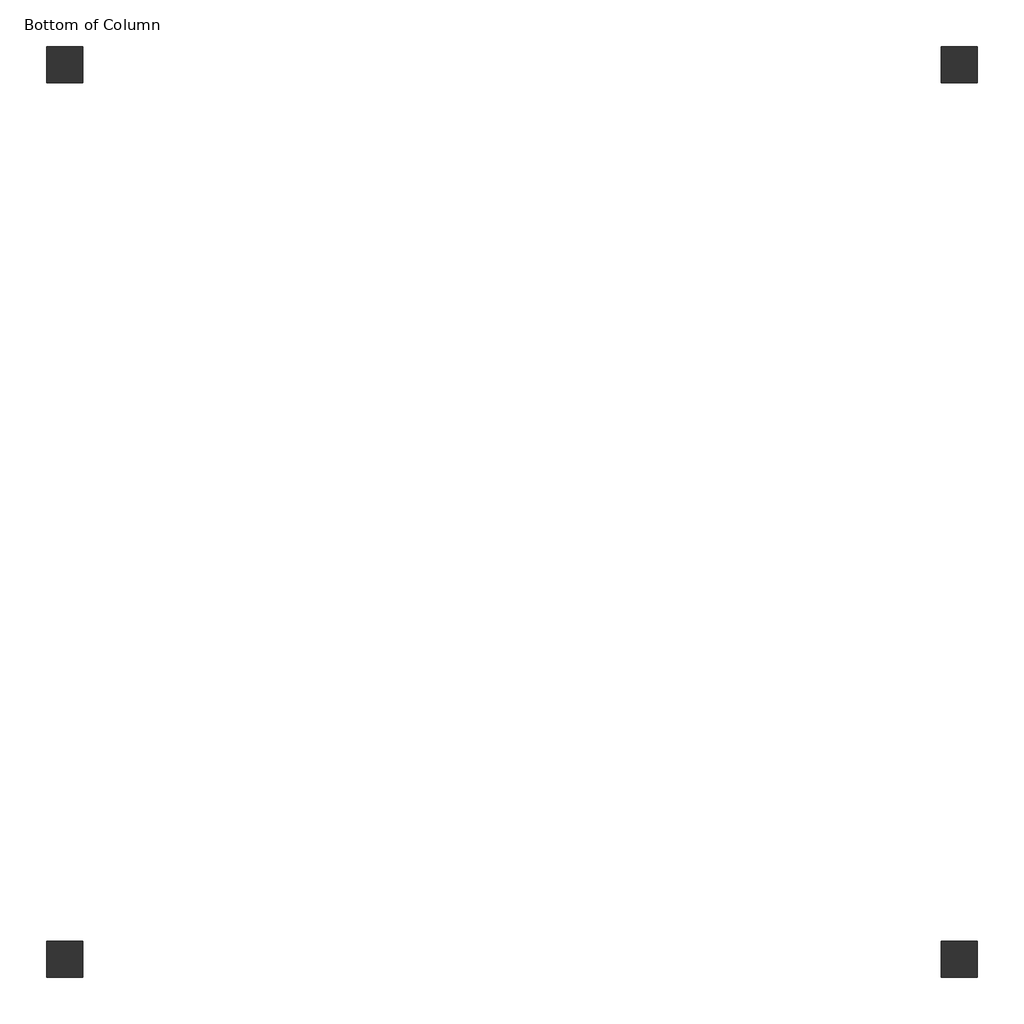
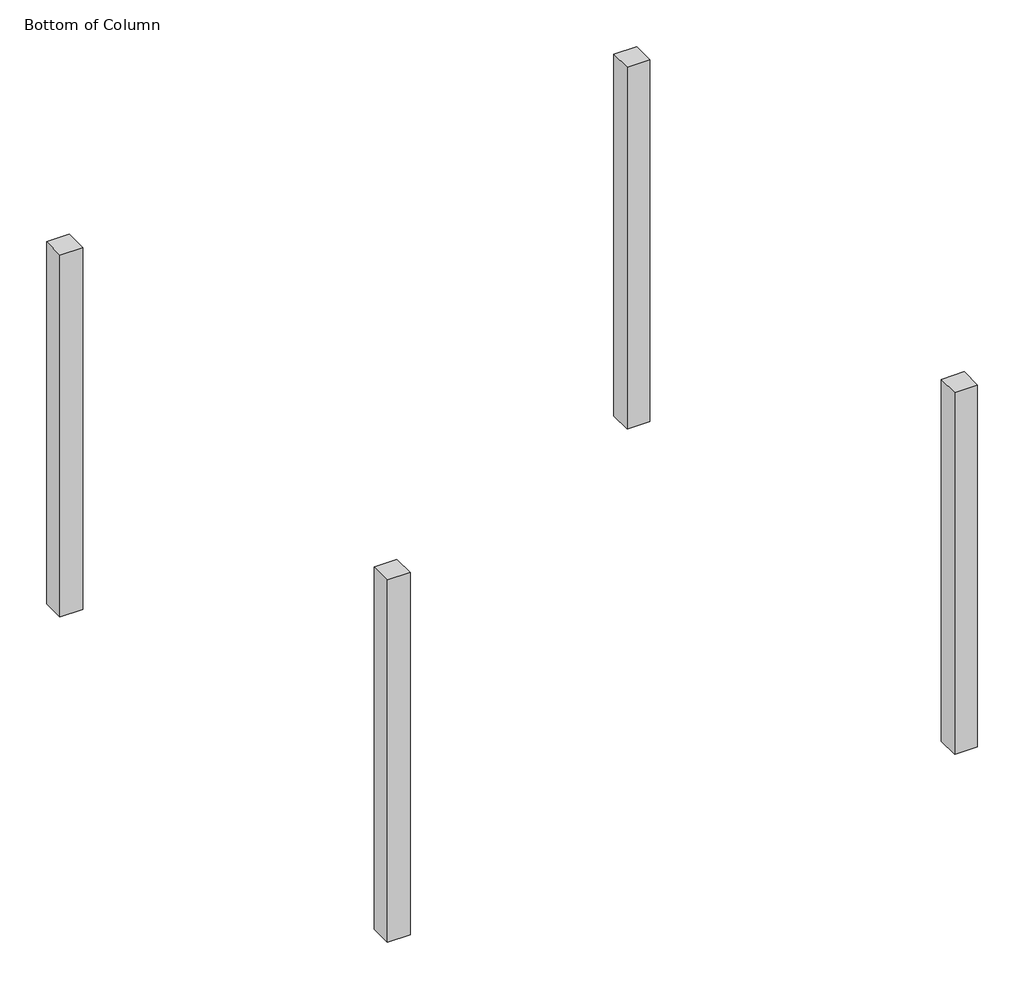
# One storey: 4 columns.
"""IFC4 building model written with IfcOpenShell, lengths in millimetres."""

from ifc_helpers import new_model, si_unit, origin, place, context, project, spatial, transform, mapped, element, save
from components import dimension_lumber_column_bh_8x8_c5bca323

model = new_model("IFC4")

# Units and contexts
model_context = context("Model", 3, world=origin())
ifc_project = project(units=[si_unit("LENGTHUNIT", "METRE", prefix="MILLI")], contexts=[model_context])

# Site, building, storey
site = spatial("IfcSite", under=ifc_project)
building = spatial("IfcBuilding", under=site)
storey = spatial("IfcBuildingStorey", under=building, Name="Bottom of Column", Elevation=-158.75)

# Columns
placement = place(None, origin())
dimension_lumber_column_bh_8x8_shape = dimension_lumber_column_bh_8x8_c5bca323(model_context)
element("IfcColumn", 1, ObjectType="Dimension Lumber-Column BH : 8x8", at=placement, inside=storey, context=model_context, shape_type="MappedRepresentation", body=[
    mapped(dimension_lumber_column_bh_8x8_shape, transform((11871.0468679, 12671.9365582, 0.0), x_axis=(1.0, 0.0, 0.0), y_axis=(0.0, 1.0, 0.0), z_axis=(0.0, 0.0, 1.0))),
])
element("IfcColumn", 2, ObjectType="Dimension Lumber-Column BH : 8x8", at=placement, inside=storey, context=model_context, shape_type="MappedRepresentation", body=[
    mapped(dimension_lumber_column_bh_8x8_shape, transform((16443.0468679, 12671.9365582, 0.0), x_axis=(1.0, 0.0, 0.0), y_axis=(0.0, 1.0, 0.0), z_axis=(0.0, 0.0, 1.0))),
])
element("IfcColumn", 3, ObjectType="Dimension Lumber-Column BH : 8x8", at=placement, inside=storey, context=model_context, shape_type="MappedRepresentation", body=[
    mapped(dimension_lumber_column_bh_8x8_shape, transform((16443.0468679, 8099.9365582, 0.0), x_axis=(1.0, 0.0, 0.0), y_axis=(0.0, 1.0, 0.0), z_axis=(0.0, 0.0, 1.0))),
])
element("IfcColumn", 4, ObjectType="Dimension Lumber-Column BH : 8x8", at=placement, inside=storey, context=model_context, shape_type="MappedRepresentation", body=[
    mapped(dimension_lumber_column_bh_8x8_shape, transform((11871.0468679, 8099.9365582, 0.0), x_axis=(1.0, 0.0, 0.0), y_axis=(0.0, 1.0, 0.0), z_axis=(0.0, 0.0, 1.0))),
])

save(model, "model.ifc")
